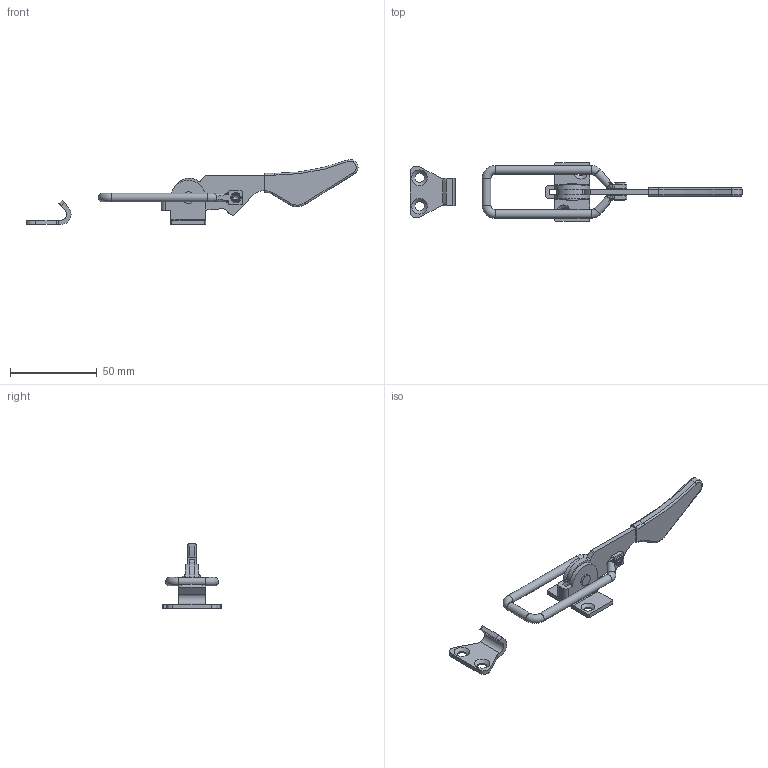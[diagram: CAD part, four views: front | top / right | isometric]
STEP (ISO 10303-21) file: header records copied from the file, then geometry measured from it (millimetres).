
FILE_DESCRIPTION(/* description */ (''),/* implementation_level */ '2;1');
FILE_NAME(/* name */ '\\NAS\db20\C-M30\DR_C-M30.stp',/* time_stamp */ '2018-03-01T15:14:10+09:00',/* author */ ('user'),/* organization */ (''),/* preprocessor_version */ 'ST-DEVELOPER v15.6',/* originating_system */ 'Autodesk Inventor 2015',/* authorisation */ '');
FILE_SCHEMA (('AUTOMOTIVE_DESIGN { 1 0 10303 214 3 1 1 }'));
Length unit declared in the file: millimetre
Products named in the file (5): DR_C-M30-BR; DR_C-M30-C; DR_C-M30-H; DR_C-M30-P; DR_C-M30
Bounding box: 191.61 x 34 x 37.5 mm (x, y, z)
Volume: 15693.3 mm3; surface area: 12871.5 mm2
Topology: 4 solids, 4 shells, 174 faces, 445 edges, 283 vertices
Faces by surface type: cylinder 62, plane 60, bspline 24, torus 22, cone 6
Full cylindrical faces by diameter (mm): 2.8 x2, 3 x4, 4.5 x2, 5 x5, 5.5 x2, 6 x2, 6.6 x1
Entity records: 5913 total; most frequent: CARTESIAN_POINT 1753, DIRECTION 832, ORIENTED_EDGE 818, EDGE_CURVE 409, AXIS2_PLACEMENT_3D 332, VERTEX_POINT 277, EDGE_LOOP 224, FACE_OUTER_BOUND 174
